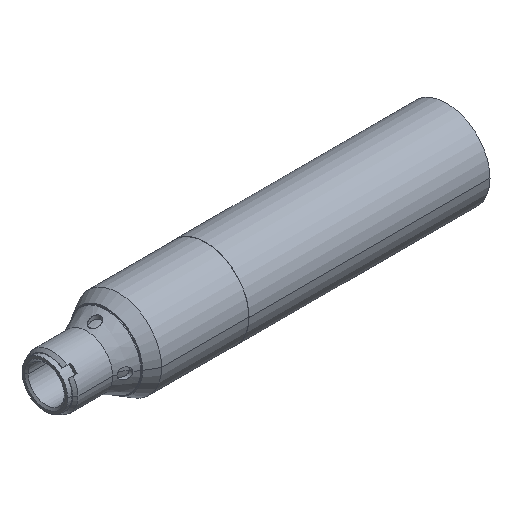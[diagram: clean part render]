
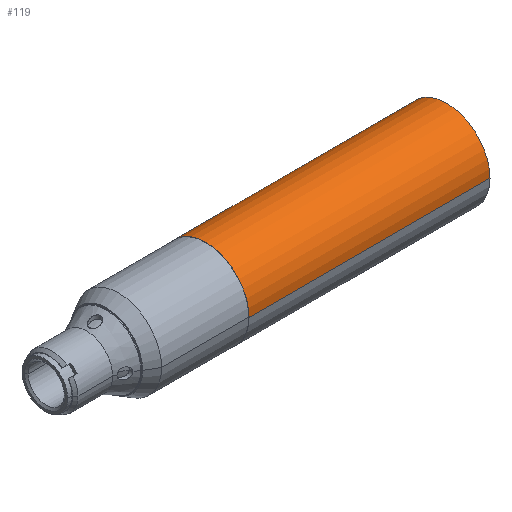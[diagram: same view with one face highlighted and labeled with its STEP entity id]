
A CAD part, isometric view. The second image highlights one B-rep face of the part: STEP entity #119.
In plain terms, the highlighted cylindrical face has radius 9.97 mm (diameter 19.94 mm), a partial arc.
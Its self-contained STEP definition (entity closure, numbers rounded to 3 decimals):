
#119 = ADVANCED_FACE( '', ( #219 ), #220, .T. );
#219 = FACE_OUTER_BOUND( '', #330, .T. );
#220 = CYLINDRICAL_SURFACE( '', #331, 9.97 );
#330 = EDGE_LOOP( '', ( #702, #703, #704, #705 ) );
#331 = AXIS2_PLACEMENT_3D( '', #706, #707, #708 );
#702 = ORIENTED_EDGE( '', *, *, #783, .T. );
#703 = ORIENTED_EDGE( '', *, *, #891, .F. );
#704 = ORIENTED_EDGE( '', *, *, #785, .T. );
#705 = ORIENTED_EDGE( '', *, *, #890, .T. );
#706 = CARTESIAN_POINT( '', ( 64.625, 0., 0. ) );
#707 = DIRECTION( '', ( 1., 0., 0. ) );
#708 = DIRECTION( '', ( 0., 1., 0. ) );
#783 = EDGE_CURVE( '', #926, #927, #928, .T. );
#785 = EDGE_CURVE( '', #931, #929, #932, .T. );
#890 = EDGE_CURVE( '', #929, #926, #1102, .T. );
#891 = EDGE_CURVE( '', #931, #927, #1103, .T. );
#926 = VERTEX_POINT( '', #1146 );
#927 = VERTEX_POINT( '', #1147 );
#928 = LINE( '', #1148, #1149 );
#929 = VERTEX_POINT( '', #1150 );
#931 = VERTEX_POINT( '', #1152 );
#932 = LINE( '', #1153, #1154 );
#1102 = CIRCLE( '', #1718, 9.97 );
#1103 = CIRCLE( '', #1719, 9.97 );
#1146 = CARTESIAN_POINT( '', ( 92.3, 9.97, 0. ) );
#1147 = CARTESIAN_POINT( '', ( 36.95, 9.97, 0. ) );
#1148 = CARTESIAN_POINT( '', ( 64.625, 9.97, 0. ) );
#1149 = VECTOR( '', #1754, 1. );
#1150 = CARTESIAN_POINT( '', ( 92.3, -9.97, 0. ) );
#1152 = CARTESIAN_POINT( '', ( 36.95, -9.97, 0. ) );
#1153 = CARTESIAN_POINT( '', ( 64.625, -9.97, 0. ) );
#1154 = VECTOR( '', #1758, 1. );
#1718 = AXIS2_PLACEMENT_3D( '', #1895, #1896, #1897 );
#1719 = AXIS2_PLACEMENT_3D( '', #1898, #1899, #1900 );
#1754 = DIRECTION( '', ( -1., 0., 0. ) );
#1758 = DIRECTION( '', ( 1., 0., 0. ) );
#1895 = CARTESIAN_POINT( '', ( 92.3, 0., 0. ) );
#1896 = DIRECTION( '', ( -1., 0., 0. ) );
#1897 = DIRECTION( '', ( 0., 1., 0. ) );
#1898 = CARTESIAN_POINT( '', ( 36.95, 0., 0. ) );
#1899 = DIRECTION( '', ( -1., 0., 0. ) );
#1900 = DIRECTION( '', ( 0., 1., 0. ) );
